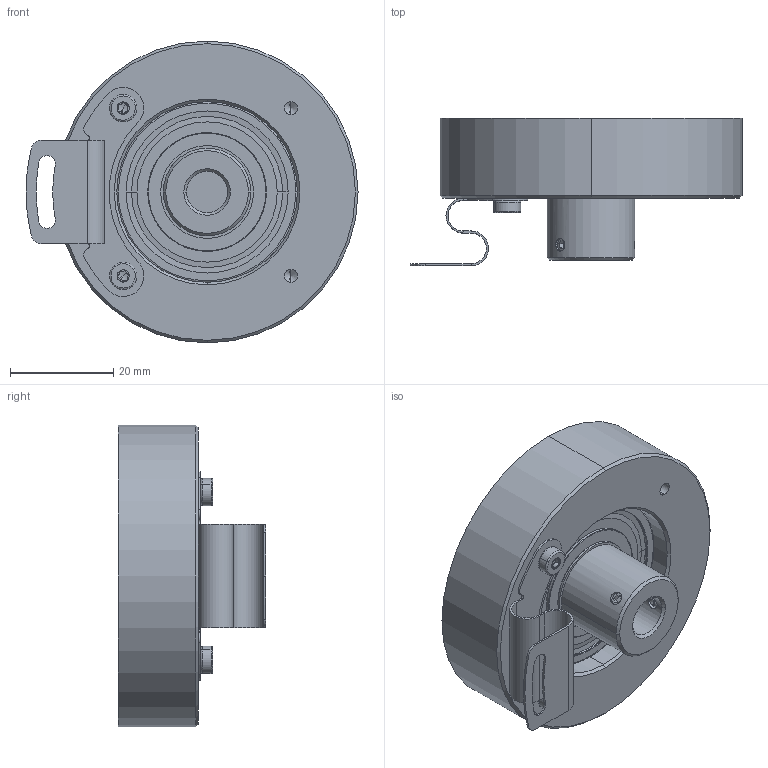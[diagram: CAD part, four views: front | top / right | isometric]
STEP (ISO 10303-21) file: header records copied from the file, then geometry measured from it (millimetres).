
FILE_DESCRIPTION (( 'STEP AP214' ), '1' );
FILE_NAME ('drawing ucd-x8t0-q5b-n.STEP', '2017-03-21T16:35:59', ( '' ), ( '' ), 'SwSTEP 2.0', 'SolidWorks 2015', '' );
FILE_SCHEMA (( 'AUTOMOTIVE_DESIGN' ));
Length unit declared in the file: millimetre
Products named in the file (1): drawing ucd-x8t0-q5b-n
Bounding box: 64.35 x 28.6 x 58.5 mm (x, y, z)
Volume: 37801.6 mm3; surface area: 20992.2 mm2
Topology: 20 solids, 20 shells, 477 faces, 1091 edges, 611 vertices
Faces by surface type: cone 190, cylinder 149, plane 68, bspline 50, torus 20
Entity records: 14572 total; most frequent: CARTESIAN_POINT 3884, DIRECTION 2367, ORIENTED_EDGE 2058, EDGE_CURVE 1029, AXIS2_PLACEMENT_3D 986, VERTEX_POINT 611, CIRCLE 558, EDGE_LOOP 514
